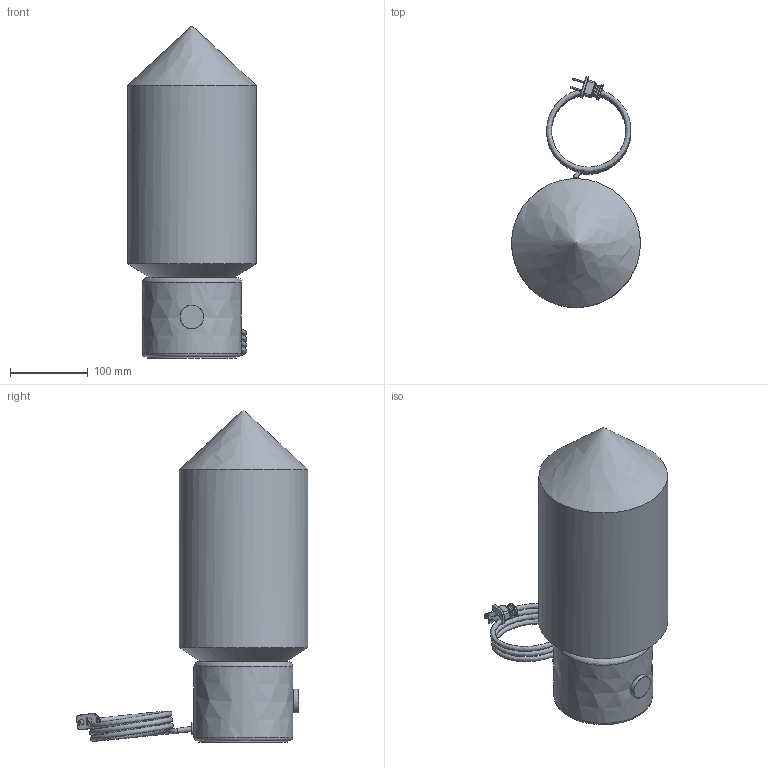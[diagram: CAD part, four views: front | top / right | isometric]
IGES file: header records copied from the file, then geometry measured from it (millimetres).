
Global section: file name: Niche - Dart Petite - Ionic Table Lamp; native system: unknown; preprocessor: unknown; author: unknown; organization: unknown; date: 20250210.084632; units: inch
Bounding box: 165.1 x 296.78 x 425.77 mm (x, y, z)
Volume: 1348104.4 mm3; surface area: 659274.1 mm2
Topology: 17 solids, 17 shells, 2004 faces, 5346 edges, 3522 vertices
Faces by surface type: bspline 2003, revolution 1
